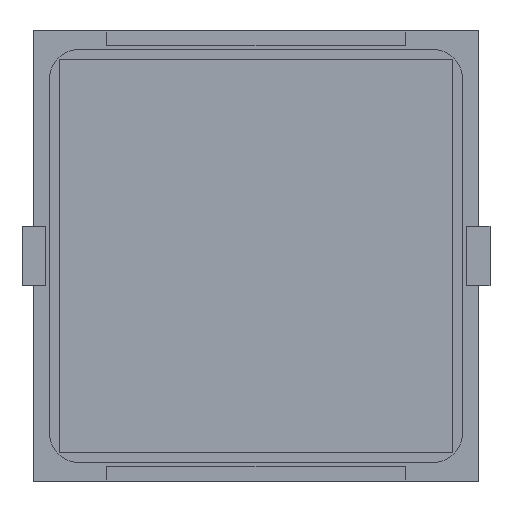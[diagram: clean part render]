
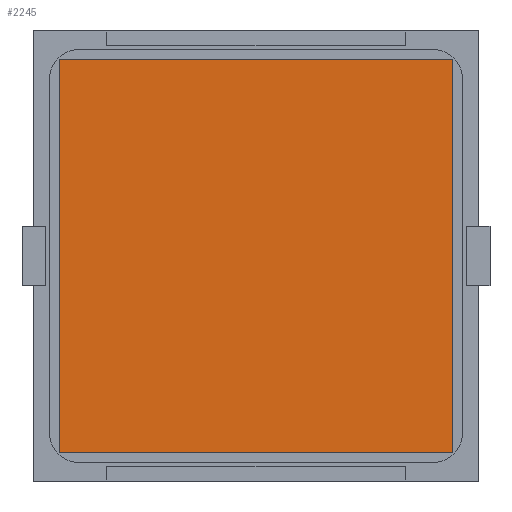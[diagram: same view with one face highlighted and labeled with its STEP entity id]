
A CAD part, front view. The second image highlights one B-rep face of the part: STEP entity #2245.
In plain terms, the highlighted planar face has unit normal (0, -1, 0).
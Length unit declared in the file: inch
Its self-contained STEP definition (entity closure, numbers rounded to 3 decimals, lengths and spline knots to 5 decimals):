
#160 = LINE ( 'NONE', #1110, #549 ) ;
#497 = ORIENTED_EDGE ( 'NONE', *, *, #4907, .F. ) ;
#549 = VECTOR ( 'NONE', #4423, 39.37008 ) ;
#1110 = CARTESIAN_POINT ( 'NONE',  ( 0.64961, -0.005, -0.64961 ) ) ;
#1238 = EDGE_CURVE ( 'NONE', #6713, #10261, #10669, .T. ) ;
#1403 = FACE_OUTER_BOUND ( 'NONE', #6162, .T. ) ;
#1475 = AXIS2_PLACEMENT_3D ( 'NONE', #3840, #8782, #7156 ) ;
#1528 = DIRECTION ( 'NONE',  ( 1., 0., 0. ) ) ;
#2245 = ADVANCED_FACE ( 'NONE', ( #1403 ), #6443, .F. ) ;
#2261 = LINE ( 'NONE', #5592, #8369 ) ;
#3753 = CARTESIAN_POINT ( 'NONE',  ( -0.64961, -0.005, -0.64961 ) ) ;
#3840 = CARTESIAN_POINT ( 'NONE',  ( -0.64961, -0.005, 0.64961 ) ) ;
#4423 = DIRECTION ( 'NONE',  ( 0., 0., -1. ) ) ;
#4877 = DIRECTION ( 'NONE',  ( -1., 0., 0. ) ) ;
#4907 = EDGE_CURVE ( 'NONE', #10261, #5182, #160, .T. ) ;
#5182 = VERTEX_POINT ( 'NONE', #9352 ) ;
#5381 = VECTOR ( 'NONE', #1528, 39.37008 ) ;
#5592 = CARTESIAN_POINT ( 'NONE',  ( -0.64961, -0.005, -0.64961 ) ) ;
#5787 = EDGE_CURVE ( 'NONE', #9006, #6713, #8941, .T. ) ;
#6162 = EDGE_LOOP ( 'NONE', ( #7702, #6286, #497, #9796 ) ) ;
#6286 = ORIENTED_EDGE ( 'NONE', *, *, #6690, .F. ) ;
#6443 = PLANE ( 'NONE',  #1475 ) ;
#6690 = EDGE_CURVE ( 'NONE', #5182, #9006, #2261, .T. ) ;
#6713 = VERTEX_POINT ( 'NONE', #8897 ) ;
#7156 = DIRECTION ( 'NONE',  ( 0., 0., 1. ) ) ;
#7318 = CARTESIAN_POINT ( 'NONE',  ( -0.64961, -0.005, -0.64961 ) ) ;
#7702 = ORIENTED_EDGE ( 'NONE', *, *, #5787, .F. ) ;
#8369 = VECTOR ( 'NONE', #4877, 39.37008 ) ;
#8630 = CARTESIAN_POINT ( 'NONE',  ( 0.64961, -0.005, 0.64961 ) ) ;
#8782 = DIRECTION ( 'NONE',  ( 0., 1., 0. ) ) ;
#8787 = DIRECTION ( 'NONE',  ( 0., 0., 1. ) ) ;
#8897 = CARTESIAN_POINT ( 'NONE',  ( -0.64961, -0.005, 0.64961 ) ) ;
#8941 = LINE ( 'NONE', #7318, #9047 ) ;
#9006 = VERTEX_POINT ( 'NONE', #3753 ) ;
#9047 = VECTOR ( 'NONE', #8787, 39.37008 ) ;
#9352 = CARTESIAN_POINT ( 'NONE',  ( 0.64961, -0.005, -0.64961 ) ) ;
#9796 = ORIENTED_EDGE ( 'NONE', *, *, #1238, .F. ) ;
#9912 = CARTESIAN_POINT ( 'NONE',  ( -0.64961, -0.005, 0.64961 ) ) ;
#10261 = VERTEX_POINT ( 'NONE', #8630 ) ;
#10669 = LINE ( 'NONE', #9912, #5381 ) ;
